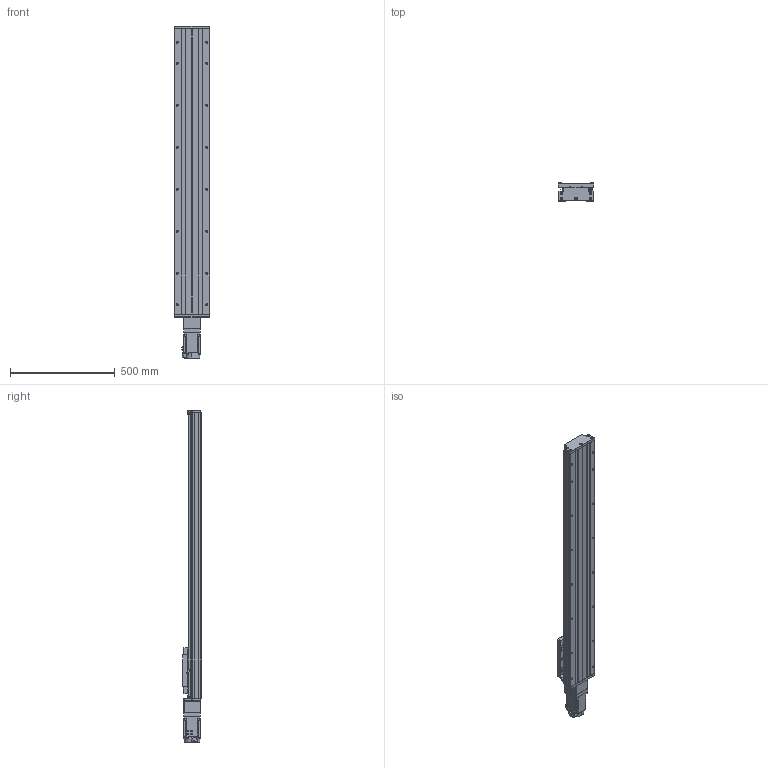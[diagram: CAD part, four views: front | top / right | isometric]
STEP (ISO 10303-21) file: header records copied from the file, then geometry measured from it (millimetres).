
FILE_DESCRIPTION (( 'STEP AP203' ), '1' );
FILE_NAME ('GTH17-1100-BC-M75-C4.step', '2023-06-30T11:20:01', ( '微软用户' ), ( '微软中国' ), 'SwSTEP 2.0', 'SolidWorks 2020', '' );
FILE_SCHEMA (( 'CONFIG_CONTROL_DESIGN' ));
Length unit declared in the file: millimetre
Products named in the file (20): GBT77-2000 M3×3; GTH17-013; GTH17-005; GBT 70.1-M6¡Á20_M6¡Á20; GTH17-027-1; GB1155-6X6; GTH17-031; HG-KN73J-S100; CTHA60-017; GBT 70.2-M3¡Á5_M3¡Á6; GTH17-1100-BC-M75-C4; EE_SX911P_R; す晦芛蹟隊 M3℅5; GTH17-001_1100; CTHA60-016; GBT 70.3-M3℅8; GTH17-002_GTH17-002; GBT 70.1-M3℅5; GTH17-006-2_M75; GTH17-004
Assembly tree (57 placements, depth 2):
  GTH17-1100-BC-M75-C4
    GTH17-001_1100
    GTH17-002_GTH17-002
    GTH17-004
    GTH17-005
    GB1155-6X6  x2
    CTHA60-017  x3
    EE_SX911P_R  x3
    CTHA60-016  x2
    GBT 70.1-M3℅5  x6
    GBT77-2000 M3×3  x6
    GBT 70.1-M6¡Á20_M6¡Á20  x10
    GTH17-031
    GBT 70.2-M3¡Á5_M3¡Á6  x8
    す晦芛蹟隊 M3℅5  x6
    GBT 70.3-M3℅8  x2
    GTH17-006-2_M75
    GTH17-013
    GTH17-027-1
    HG-KN73J-S100
Bounding box: 171 x 87 x 1581.2 mm (x, y, z)
Volume: 11868021.1 mm3; surface area: 1485361.6 mm2
Topology: 60 solids, 60 shells, 2434 faces, 5821 edges, 3611 vertices
Faces by surface type: plane 1309, cylinder 678, cone 287, torus 120, sphere 20, bspline 20
Entity records: 45761 total; most frequent: CARTESIAN_POINT 10527, DIRECTION 6657, ORIENTED_EDGE 6558, EDGE_CURVE 3279, AXIS2_PLACEMENT_3D 2275, VECTOR 2107, LINE 2107, VERTEX_POINT 2079
